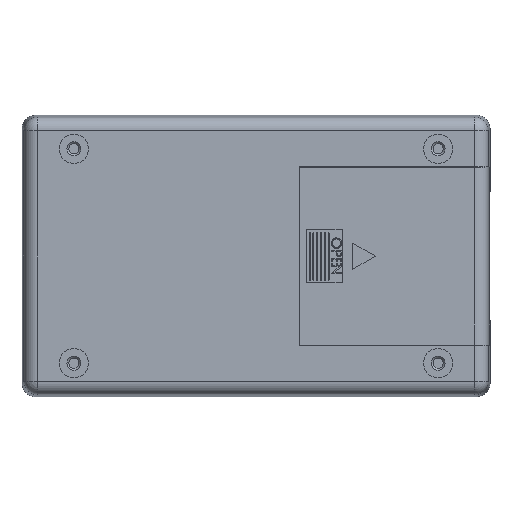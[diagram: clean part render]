
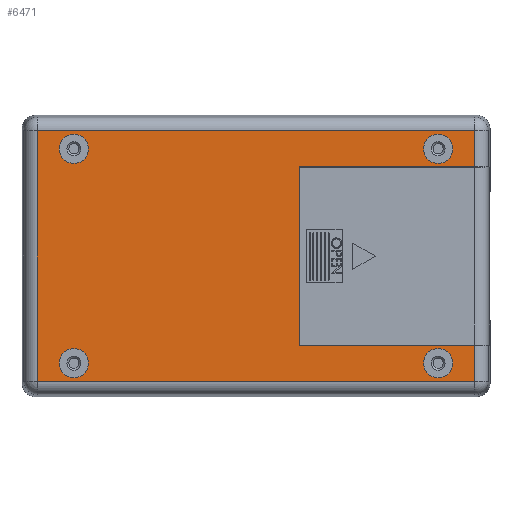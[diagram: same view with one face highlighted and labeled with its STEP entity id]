
A CAD part, front view. The second image highlights one B-rep face of the part: STEP entity #6471.
In plain terms, the highlighted planar face has unit normal (0, -1, 0).
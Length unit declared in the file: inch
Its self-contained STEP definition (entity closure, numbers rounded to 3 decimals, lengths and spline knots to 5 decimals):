
#70 = EDGE_LOOP ( 'NONE', ( #28439, #12330 ) ) ;
#216 = DIRECTION ( 'NONE',  ( 1., 0., 0. ) ) ;
#670 = ORIENTED_EDGE ( 'NONE', *, *, #22032, .F. ) ;
#835 = DIRECTION ( 'NONE',  ( 0., 0., -1. ) ) ;
#904 = CARTESIAN_POINT ( 'NONE',  ( 2.90684, -0.665, -1.18504 ) ) ;
#966 = CARTESIAN_POINT ( 'NONE',  ( -2.423, -0.665, 1.426 ) ) ;
#1388 = ORIENTED_EDGE ( 'NONE', *, *, #20186, .F. ) ;
#1443 = CIRCLE ( 'NONE', #1944, 0.195 ) ;
#1741 = ORIENTED_EDGE ( 'NONE', *, *, #23731, .T. ) ;
#1934 = CIRCLE ( 'NONE', #12740, 0.195 ) ;
#1944 = AXIS2_PLACEMENT_3D ( 'NONE', #9442, #24844, #11593 ) ;
#2286 = CARTESIAN_POINT ( 'NONE',  ( 0.57707, -0.665, 1.18504 ) ) ;
#2448 = DIRECTION ( 'NONE',  ( 0., -1., 0. ) ) ;
#2568 = VECTOR ( 'NONE', #216, 39.37008 ) ;
#2611 = EDGE_CURVE ( 'NONE', #14000, #27472, #17401, .T. ) ;
#2785 = CARTESIAN_POINT ( 'NONE',  ( -2.423, -0.665, 1.621 ) ) ;
#3028 = DIRECTION ( 'NONE',  ( 0., -1., 0. ) ) ;
#3186 = CARTESIAN_POINT ( 'NONE',  ( 2.423, -0.665, -1.426 ) ) ;
#3287 = VERTEX_POINT ( 'NONE', #11897 ) ;
#3297 = DIRECTION ( 'NONE',  ( 0., 0., -1. ) ) ;
#3362 = VECTOR ( 'NONE', #26652, 39.37008 ) ;
#3918 = CARTESIAN_POINT ( 'NONE',  ( 2.90684, -0.665, 1.18504 ) ) ;
#4077 = CARTESIAN_POINT ( 'NONE',  ( 2.93927, -0.665, 1.18504 ) ) ;
#4298 = ORIENTED_EDGE ( 'NONE', *, *, #19819, .F. ) ;
#4499 = VERTEX_POINT ( 'NONE', #20198 ) ;
#4675 = ORIENTED_EDGE ( 'NONE', *, *, #18758, .F. ) ;
#4833 = LINE ( 'NONE', #15495, #3362 ) ;
#5068 = FACE_BOUND ( 'NONE', #21317, .T. ) ;
#5348 = VERTEX_POINT ( 'NONE', #3918 ) ;
#5491 = VERTEX_POINT ( 'NONE', #6875 ) ;
#5541 = DIRECTION ( 'NONE',  ( 0., 0., -1. ) ) ;
#5900 = VECTOR ( 'NONE', #24647, 39.37008 ) ;
#6092 = VECTOR ( 'NONE', #9507, 39.37008 ) ;
#6165 = ORIENTED_EDGE ( 'NONE', *, *, #20488, .F. ) ;
#6471 = ADVANCED_FACE ( 'NONE', ( #5068, #11715, #22699, #11021, #28121 ), #15805, .F. ) ;
#6875 = CARTESIAN_POINT ( 'NONE',  ( -2.423, -0.665, 1.231 ) ) ;
#7150 = DIRECTION ( 'NONE',  ( 0., 1., 0. ) ) ;
#7187 = CARTESIAN_POINT ( 'NONE',  ( -2.423, -0.665, -1.621 ) ) ;
#7264 = CARTESIAN_POINT ( 'NONE',  ( 2.8979, -0.665, -1.66584 ) ) ;
#7371 = CARTESIAN_POINT ( 'NONE',  ( 2.423, -0.665, 1.426 ) ) ;
#7769 = CARTESIAN_POINT ( 'NONE',  ( -2.90684, -0.665, -1.6569 ) ) ;
#7852 = VERTEX_POINT ( 'NONE', #25444 ) ;
#8284 = ORIENTED_EDGE ( 'NONE', *, *, #2611, .F. ) ;
#8350 = AXIS2_PLACEMENT_3D ( 'NONE', #8747, #24114, #10905 ) ;
#8421 = CARTESIAN_POINT ( 'NONE',  ( 0.57707, -0.665, -1.18504 ) ) ;
#8747 = CARTESIAN_POINT ( 'NONE',  ( -2.423, -0.665, 1.426 ) ) ;
#9442 = CARTESIAN_POINT ( 'NONE',  ( -2.423, -0.665, -1.426 ) ) ;
#9488 = CIRCLE ( 'NONE', #12450, 0.195 ) ;
#9498 = AXIS2_PLACEMENT_3D ( 'NONE', #3186, #18732, #5541 ) ;
#9507 = DIRECTION ( 'NONE',  ( 0., 0., 1. ) ) ;
#9603 = DIRECTION ( 'NONE',  ( 0., 0., -1. ) ) ;
#9783 = VERTEX_POINT ( 'NONE', #2785 ) ;
#9818 = CIRCLE ( 'NONE', #9498, 0.195 ) ;
#10789 = AXIS2_PLACEMENT_3D ( 'NONE', #25573, #12281, #27911 ) ;
#10905 = DIRECTION ( 'NONE',  ( 0., 0., -1. ) ) ;
#11021 = FACE_BOUND ( 'NONE', #18623, .T. ) ;
#11310 = DIRECTION ( 'NONE',  ( 0., 0., -1. ) ) ;
#11593 = DIRECTION ( 'NONE',  ( 0., 0., -1. ) ) ;
#11715 = FACE_BOUND ( 'NONE', #20554, .T. ) ;
#11897 = CARTESIAN_POINT ( 'NONE',  ( 2.423, -0.665, 1.621 ) ) ;
#11966 = EDGE_CURVE ( 'NONE', #4499, #15646, #27595, .T. ) ;
#12281 = DIRECTION ( 'NONE',  ( 0., -1., 0. ) ) ;
#12330 = ORIENTED_EDGE ( 'NONE', *, *, #22117, .F. ) ;
#12338 = VERTEX_POINT ( 'NONE', #22093 ) ;
#12450 = AXIS2_PLACEMENT_3D ( 'NONE', #966, #16649, #3297 ) ;
#12662 = ORIENTED_EDGE ( 'NONE', *, *, #25542, .F. ) ;
#12669 = CARTESIAN_POINT ( 'NONE',  ( -2.90684, -0.665, -1.66584 ) ) ;
#12740 = AXIS2_PLACEMENT_3D ( 'NONE', #16380, #3028, #18566 ) ;
#12854 = DIRECTION ( 'NONE',  ( -1., 0., 0. ) ) ;
#12960 = VERTEX_POINT ( 'NONE', #8421 ) ;
#13030 = ORIENTED_EDGE ( 'NONE', *, *, #18878, .T. ) ;
#13408 = LINE ( 'NONE', #2286, #18533 ) ;
#13940 = EDGE_CURVE ( 'NONE', #5348, #4499, #17609, .T. ) ;
#14000 = VERTEX_POINT ( 'NONE', #22524 ) ;
#14250 = VECTOR ( 'NONE', #835, 39.37008 ) ;
#14939 = LINE ( 'NONE', #7769, #14250 ) ;
#15019 = EDGE_CURVE ( 'NONE', #5348, #12338, #24560, .T. ) ;
#15150 = DIRECTION ( 'NONE',  ( -1., 0., 0. ) ) ;
#15283 = VERTEX_POINT ( 'NONE', #18009 ) ;
#15495 = CARTESIAN_POINT ( 'NONE',  ( 0.57707, -0.665, -1.18504 ) ) ;
#15599 = VERTEX_POINT ( 'NONE', #12669 ) ;
#15646 = VERTEX_POINT ( 'NONE', #21672 ) ;
#15793 = EDGE_LOOP ( 'NONE', ( #1741, #1388, #670, #17109, #20244, #22341, #13030, #20906 ) ) ;
#15805 = PLANE ( 'NONE',  #24275 ) ;
#15836 = CARTESIAN_POINT ( 'NONE',  ( -2.423, -0.665, -1.426 ) ) ;
#16380 = CARTESIAN_POINT ( 'NONE',  ( 2.423, -0.665, 1.426 ) ) ;
#16649 = DIRECTION ( 'NONE',  ( 0., -1., 0. ) ) ;
#17109 = ORIENTED_EDGE ( 'NONE', *, *, #15019, .F. ) ;
#17401 = CIRCLE ( 'NONE', #10789, 0.195 ) ;
#17609 = LINE ( 'NONE', #26950, #5900 ) ;
#18009 = CARTESIAN_POINT ( 'NONE',  ( 2.423, -0.665, 1.231 ) ) ;
#18042 = DIRECTION ( 'NONE',  ( 0., 0., -1. ) ) ;
#18371 = CIRCLE ( 'NONE', #18546, 0.195 ) ;
#18533 = VECTOR ( 'NONE', #11310, 39.37008 ) ;
#18546 = AXIS2_PLACEMENT_3D ( 'NONE', #7371, #22687, #9603 ) ;
#18566 = DIRECTION ( 'NONE',  ( 0., 0., -1. ) ) ;
#18623 = EDGE_LOOP ( 'NONE', ( #12662, #28412 ) ) ;
#18732 = DIRECTION ( 'NONE',  ( 0., -1., 0. ) ) ;
#18758 = EDGE_CURVE ( 'NONE', #15283, #3287, #18371, .T. ) ;
#18878 = EDGE_CURVE ( 'NONE', #15646, #15599, #14939, .T. ) ;
#19338 = CARTESIAN_POINT ( 'NONE',  ( -2.8979, -0.665, 1.66584 ) ) ;
#19819 = EDGE_CURVE ( 'NONE', #3287, #15283, #1934, .T. ) ;
#20186 = EDGE_CURVE ( 'NONE', #12960, #28153, #4833, .T. ) ;
#20198 = CARTESIAN_POINT ( 'NONE',  ( 2.90684, -0.665, 1.66584 ) ) ;
#20218 = CARTESIAN_POINT ( 'NONE',  ( -3.1125, -0.665, 1.8715 ) ) ;
#20244 = ORIENTED_EDGE ( 'NONE', *, *, #13940, .T. ) ;
#20308 = LINE ( 'NONE', #7264, #2568 ) ;
#20334 = CIRCLE ( 'NONE', #8350, 0.195 ) ;
#20488 = EDGE_CURVE ( 'NONE', #27472, #14000, #9818, .T. ) ;
#20554 = EDGE_LOOP ( 'NONE', ( #4675, #4298 ) ) ;
#20763 = EDGE_CURVE ( 'NONE', #9783, #5491, #20334, .T. ) ;
#20906 = ORIENTED_EDGE ( 'NONE', *, *, #29119, .T. ) ;
#20914 = AXIS2_PLACEMENT_3D ( 'NONE', #15836, #2448, #18042 ) ;
#21317 = EDGE_LOOP ( 'NONE', ( #8284, #6165 ) ) ;
#21478 = VECTOR ( 'NONE', #12854, 39.37008 ) ;
#21672 = CARTESIAN_POINT ( 'NONE',  ( -2.90684, -0.665, 1.66584 ) ) ;
#21684 = CARTESIAN_POINT ( 'NONE',  ( 2.90684, -0.665, -1.66584 ) ) ;
#22032 = EDGE_CURVE ( 'NONE', #12338, #12960, #13408, .T. ) ;
#22093 = CARTESIAN_POINT ( 'NONE',  ( 0.57707, -0.665, 1.18504 ) ) ;
#22117 = EDGE_CURVE ( 'NONE', #7852, #23318, #1443, .T. ) ;
#22341 = ORIENTED_EDGE ( 'NONE', *, *, #11966, .T. ) ;
#22481 = DIRECTION ( 'NONE',  ( 0., 0., 1. ) ) ;
#22524 = CARTESIAN_POINT ( 'NONE',  ( 2.423, -0.665, -1.621 ) ) ;
#22687 = DIRECTION ( 'NONE',  ( 0., -1., 0. ) ) ;
#22692 = VERTEX_POINT ( 'NONE', #21684 ) ;
#22699 = FACE_OUTER_BOUND ( 'NONE', #15793, .T. ) ;
#23318 = VERTEX_POINT ( 'NONE', #7187 ) ;
#23716 = LINE ( 'NONE', #24903, #6092 ) ;
#23731 = EDGE_CURVE ( 'NONE', #22692, #28153, #23716, .T. ) ;
#23847 = VECTOR ( 'NONE', #15150, 39.37008 ) ;
#24114 = DIRECTION ( 'NONE',  ( 0., -1., 0. ) ) ;
#24275 = AXIS2_PLACEMENT_3D ( 'NONE', #20218, #7150, #22481 ) ;
#24560 = LINE ( 'NONE', #4077, #23847 ) ;
#24647 = DIRECTION ( 'NONE',  ( 0., 0., 1. ) ) ;
#24844 = DIRECTION ( 'NONE',  ( 0., -1., 0. ) ) ;
#24903 = CARTESIAN_POINT ( 'NONE',  ( 2.90684, -0.665, 1.6569 ) ) ;
#25444 = CARTESIAN_POINT ( 'NONE',  ( -2.423, -0.665, -1.231 ) ) ;
#25542 = EDGE_CURVE ( 'NONE', #5491, #9783, #9488, .T. ) ;
#25573 = CARTESIAN_POINT ( 'NONE',  ( 2.423, -0.665, -1.426 ) ) ;
#26652 = DIRECTION ( 'NONE',  ( 1., 0., 0. ) ) ;
#26950 = CARTESIAN_POINT ( 'NONE',  ( 2.90684, -0.665, 1.6569 ) ) ;
#27472 = VERTEX_POINT ( 'NONE', #28286 ) ;
#27595 = LINE ( 'NONE', #19338, #21478 ) ;
#27832 = CIRCLE ( 'NONE', #20914, 0.195 ) ;
#27911 = DIRECTION ( 'NONE',  ( 0., 0., -1. ) ) ;
#28121 = FACE_BOUND ( 'NONE', #70, .T. ) ;
#28153 = VERTEX_POINT ( 'NONE', #904 ) ;
#28286 = CARTESIAN_POINT ( 'NONE',  ( 2.423, -0.665, -1.231 ) ) ;
#28412 = ORIENTED_EDGE ( 'NONE', *, *, #20763, .F. ) ;
#28439 = ORIENTED_EDGE ( 'NONE', *, *, #29088, .F. ) ;
#29088 = EDGE_CURVE ( 'NONE', #23318, #7852, #27832, .T. ) ;
#29119 = EDGE_CURVE ( 'NONE', #15599, #22692, #20308, .T. ) ;
